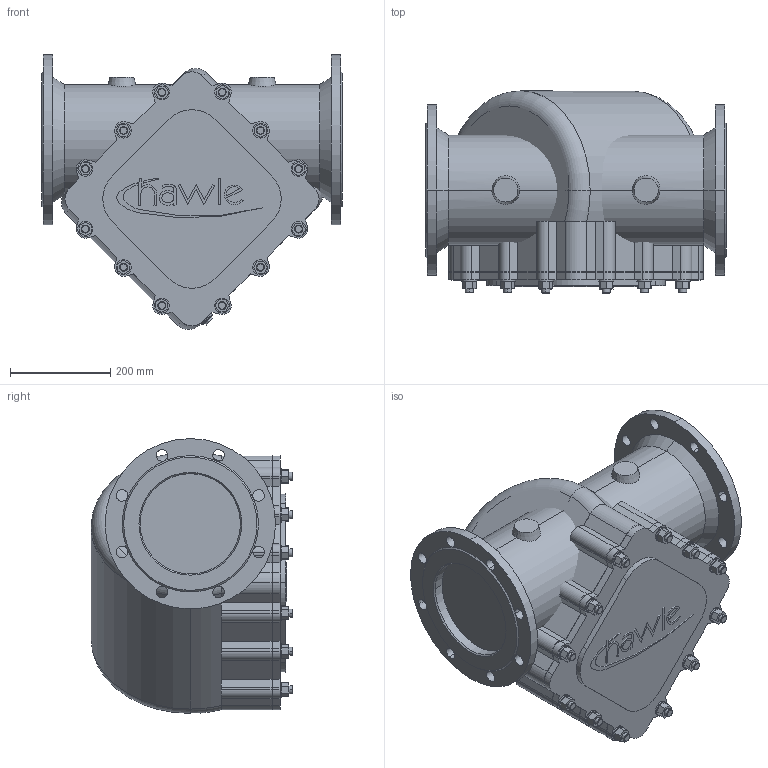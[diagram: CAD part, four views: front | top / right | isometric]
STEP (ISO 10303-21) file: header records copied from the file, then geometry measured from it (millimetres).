
FILE_DESCRIPTION(('STEP AP214'),'1');
FILE_NAME('S:/EK/USER/CAT6/3DHomepage_27-04-2012/neu_22-02-2013/9911/9911_PN10_DN200.STP','2013-02-26T13:27:55',(' '),(' '),'Spatial InterOp 3D',' ',' ');
FILE_SCHEMA(('automotive_design'));
Length unit declared in the file: millimetre
Products named in the file (73): 3D-Objekt
Bounding box: 600 x 402.7 x 548.4 mm (x, y, z)
Volume: 97359787 mm3; surface area: 3647426 mm2
Topology: 73 solids, 73 shells, 607 faces, 1370 edges, 910 vertices
Faces by surface type: plane 350, cylinder 203, cone 42, torus 12
Entity records: 24445 total; most frequent: CARTESIAN_POINT 3742, DIRECTION 3222, ORIENTED_EDGE 2740, EDGE_CURVE 1370, AXIS2_PLACEMENT_3D 1186, VERTEX_POINT 910, LINE 850, VECTOR 850
